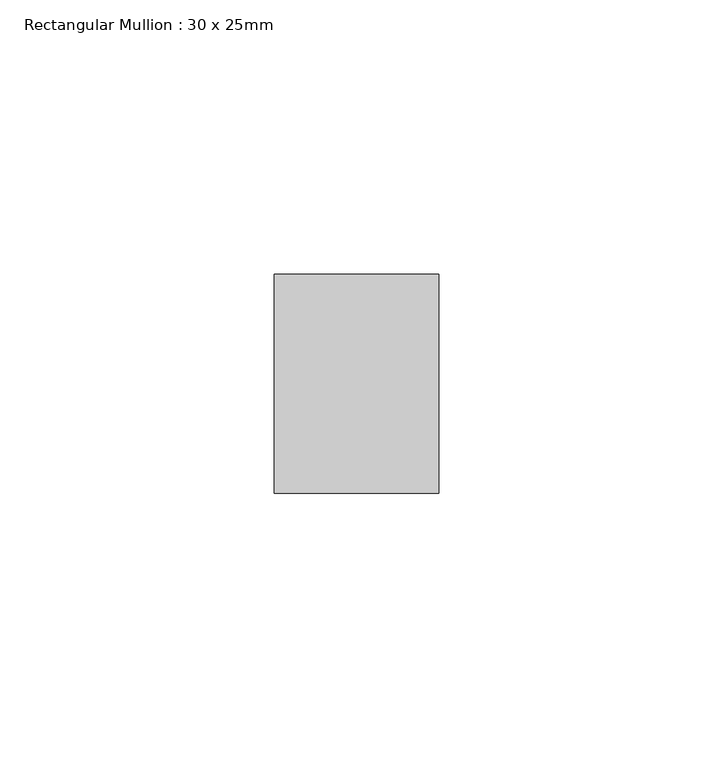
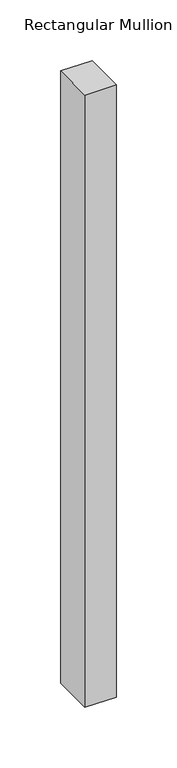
"""IFC4 building model written with IfcOpenShell, lengths in millimetres: member geometry, Rectangular Mullion : 30 x 25mm."""

from ifc_helpers import new_model, si_unit, frame, origin, place, context, project, spatial, polyline, outline, extrude, source, transform, mapped, element, save


def rectangular_mullion_30_x_25mm_2e174064(model_context):
    return source(origin(), model_context, "Body", "SweptSolid", [
        extrude(outline(polyline([(0.0, -20.0), (0.0, -60.0), (-30.0, -60.0), (-30.0, -20.0), (0.0, -20.0)])), frame((0.0, 0.0, -617.2406709), z_axis=(0.0, 0.0, 1.0), x_axis=(1.0, 0.0, 0.0)), (0.0, 0.0, 1.0), 617.2406709),
    ])


if __name__ == "__main__":
    model = new_model("IFC4")
    model_context = context("Model", 3, world=origin())
    ifc_project = project(units=[si_unit("LENGTHUNIT", "METRE", prefix="MILLI")], contexts=[model_context])
    site = spatial("IfcSite", under=ifc_project)
    building = spatial("IfcBuilding", under=site)
    placement = place(None, origin())
    rectangular_mullion_30_x_25mm_shape = rectangular_mullion_30_x_25mm_2e174064(model_context)
    element("IfcMember", 1, ObjectType="Rectangular Mullion : 30 x 25mm", at=placement, inside=building, context=model_context, shape_type="MappedRepresentation", body=[
        mapped(rectangular_mullion_30_x_25mm_shape, transform((0.0, 0.0, 0.0), x_axis=(1.0, 0.0, 0.0), y_axis=(0.0, 1.0, 0.0), z_axis=(0.0, 0.0, 1.0))),
    ])
    save(model, "model.ifc")
